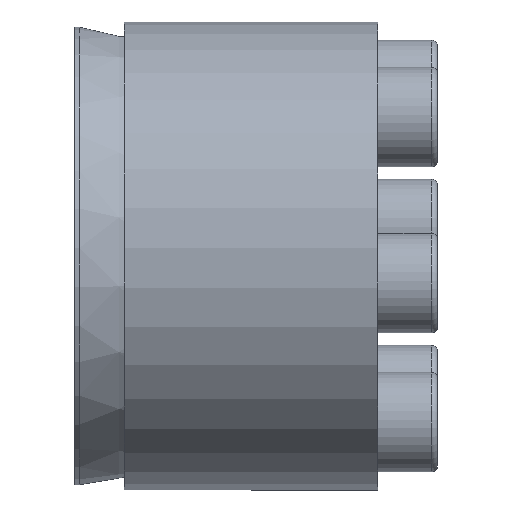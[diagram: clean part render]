
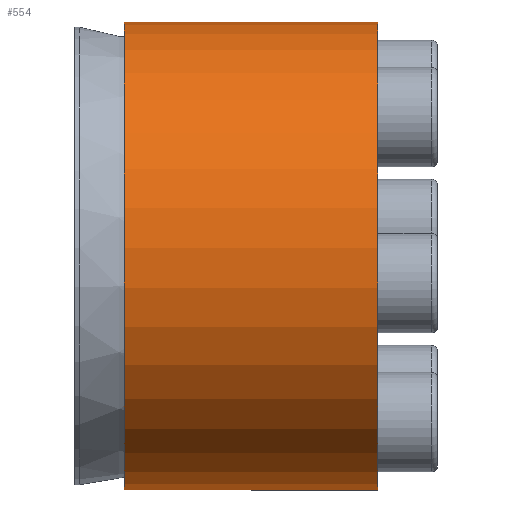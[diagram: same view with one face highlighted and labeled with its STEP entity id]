
A CAD part, top view. The second image highlights one B-rep face of the part: STEP entity #554.
In plain terms, the highlighted cylindrical face has radius 23.5 mm (diameter 47 mm), a partial arc.
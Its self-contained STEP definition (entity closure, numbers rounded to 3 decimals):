
#262=CARTESIAN_POINT('',(30.615,25.516,23.488));
#263=VERTEX_POINT('',#262);
#270=CARTESIAN_POINT('',(5.215,25.516,23.488));
#271=VERTEX_POINT('',#270);
#272=CARTESIAN_POINT('',(5.215,25.516,23.488));
#273=DIRECTION('',(1.0,0.0,0.0));
#274=VECTOR('',#273,25.4);
#275=LINE('',#272,#274);
#276=EDGE_CURVE('',#271,#263,#275,.T.);
#394=CARTESIAN_POINT('',(5.215,24.016,23.488));
#395=VERTEX_POINT('',#394);
#402=CARTESIAN_POINT('',(30.615,24.016,23.488));
#403=VERTEX_POINT('',#402);
#404=CARTESIAN_POINT('',(30.615,24.016,23.488));
#405=DIRECTION('',(-1.0,0.0,0.0));
#406=VECTOR('',#405,25.4);
#407=LINE('',#404,#406);
#408=EDGE_CURVE('',#403,#395,#407,.T.);
#531=CARTESIAN_POINT('',(17.915,24.766,0.0));
#532=DIRECTION('',(-1.0,0.0,0.0));
#533=DIRECTION('',(0.0,-1.0,0.0));
#534=AXIS2_PLACEMENT_3D('',#531,#532,#533);
#535=CYLINDRICAL_SURFACE('',#534,23.5);
#536=ORIENTED_EDGE('',*,*,#276,.T.);
#537=CARTESIAN_POINT('',(30.615,24.766,0.0));
#538=DIRECTION('',(-1.0,0.0,0.0));
#539=DIRECTION('',(0.0,-1.0,0.0));
#540=AXIS2_PLACEMENT_3D('',#537,#538,#539);
#541=CIRCLE('',#540,23.5);
#542=EDGE_CURVE('',#263,#403,#541,.T.);
#543=ORIENTED_EDGE('',*,*,#542,.T.);
#544=ORIENTED_EDGE('',*,*,#408,.T.);
#545=CARTESIAN_POINT('',(5.215,24.766,0.0));
#546=DIRECTION('',(-1.0,0.0,0.0));
#547=DIRECTION('',(0.0,-1.0,0.0));
#548=AXIS2_PLACEMENT_3D('',#545,#546,#547);
#549=CIRCLE('',#548,23.5);
#550=EDGE_CURVE('',#271,#395,#549,.T.);
#551=ORIENTED_EDGE('',*,*,#550,.F.);
#552=EDGE_LOOP('',(#536,#543,#544,#551));
#553=FACE_OUTER_BOUND('',#552,.T.);
#554=ADVANCED_FACE('',(#553),#535,.T.);
